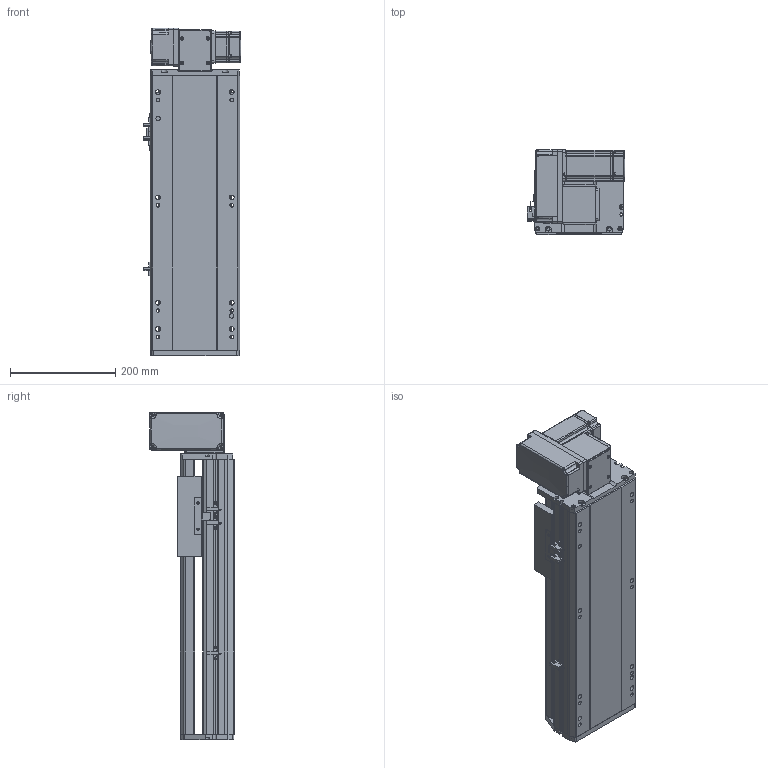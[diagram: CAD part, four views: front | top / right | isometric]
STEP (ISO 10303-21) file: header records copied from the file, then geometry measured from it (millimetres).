
FILE_DESCRIPTION (( 'STEP AP214' ), '1' );
FILE_NAME ('RTB17S-XX-250-LW-M40-C4.STEP', '2025-12-11T06:55:03', ( '' ), ( '' ), 'SwSTEP 2.0', 'SolidWorks 2018', '' );
FILE_SCHEMA (( 'AUTOMOTIVE_DESIGN' ));
Length unit declared in the file: millimetre
Products named in the file (14): RTB17S-L-007奻裔^RTB17S-XX-XX-LW-M40-C4; RTH13-BL-012覜茼え俋离^RTB17S-XX-XX-LW-M40-C4; OMRON EE-SX672 传感器^RTB17S-XX-XX-LW-M40-C4; RTB17S-L-004佪裝蹟譫蟀諉釱^RTB17S-XX-XX-LW-M40-C4; RTB17S-L-001耜醱啣^RTB17S-XX-XX-LW-M40-C4; RTB17S-L-014-T20--々湍釱^RTB17S-LW-々湍釱蚾饜-400W_RTB17S-XX-XX-LW-M40-C4; RTB14-L-008-M20--萇儂啣^RTB17S-LW-々湍釱蚾饜-400W_RTB17S-XX-XX-LW-M40-C4; RTB17-R-011菁釱^RTB17S-XX-XX-LW-M40-C4; RTB14-L-017P^RTB17S-LW-々湍釱蚾饜-400W_RTB17S-XX-XX-LW-M40-C4; RTB17S-XX-250-LW-M40-C4; RTB14-L-018P^RTB17S-LW-々湍釱蚾饜-400W_RTB17S-XX-XX-LW-M40-C4; 400W侜督萇儂^RTB17S-XX-XX-LW-M40-C4; RTB14-L-005P--轴承塑胶压盖^RTB17S-LW-皮带座装配-400W_RTB17S-XX-XX-LW-M40-C4; RTB17S-LW-々湍釱蚾饜-400W^RTB17S-XX-XX-LW-M40-C4
Assembly tree (16 placements, depth 3):
  RTB17S-XX-250-LW-M40-C4
    RTB17-R-011菁釱^RTB17S-XX-XX-LW-M40-C4
    RTB17S-L-007奻裔^RTB17S-XX-XX-LW-M40-C4
    OMRON EE-SX672 传感器^RTB17S-XX-XX-LW-M40-C4  x3
    RTB17S-L-001耜醱啣^RTB17S-XX-XX-LW-M40-C4
    400W侜督萇儂^RTB17S-XX-XX-LW-M40-C4
    RTB17S-L-004佪裝蹟譫蟀諉釱^RTB17S-XX-XX-LW-M40-C4
    RTH13-BL-012覜茼え俋离^RTB17S-XX-XX-LW-M40-C4
    RTB17S-LW-々湍釱蚾饜-400W^RTB17S-XX-XX-LW-M40-C4
      RTB17S-L-014-T20--々湍釱^RTB17S-LW-々湍釱蚾饜-400W_RTB17S-XX-XX-LW-M40-C4
      RTB14-L-005P--轴承塑胶压盖^RTB17S-LW-皮带座装配-400W_RTB17S-XX-XX-LW-M40-C4
      RTB14-L-008-M20--萇儂啣^RTB17S-LW-々湍釱蚾饜-400W_RTB17S-XX-XX-LW-M40-C4
      RTB14-L-017P^RTB17S-LW-々湍釱蚾饜-400W_RTB17S-XX-XX-LW-M40-C4  x2
      RTB14-L-018P^RTB17S-LW-々湍釱蚾饜-400W_RTB17S-XX-XX-LW-M40-C4
Bounding box: 186 x 160.5 x 622.5 mm (x, y, z)
Volume: 6252946.2 mm3; surface area: 832894.9 mm2
Topology: 15 solids, 15 shells, 2157 faces, 5925 edges, 3861 vertices
Faces by surface type: plane 1062, cylinder 647, bspline 301, cone 139, torus 8
Entity records: 60329 total; most frequent: CARTESIAN_POINT 16730, ORIENTED_EDGE 8694, DIRECTION 8126, EDGE_CURVE 4347, VERTEX_POINT 2849, AXIS2_PLACEMENT_3D 2779, LINE 2568, VECTOR 2568
